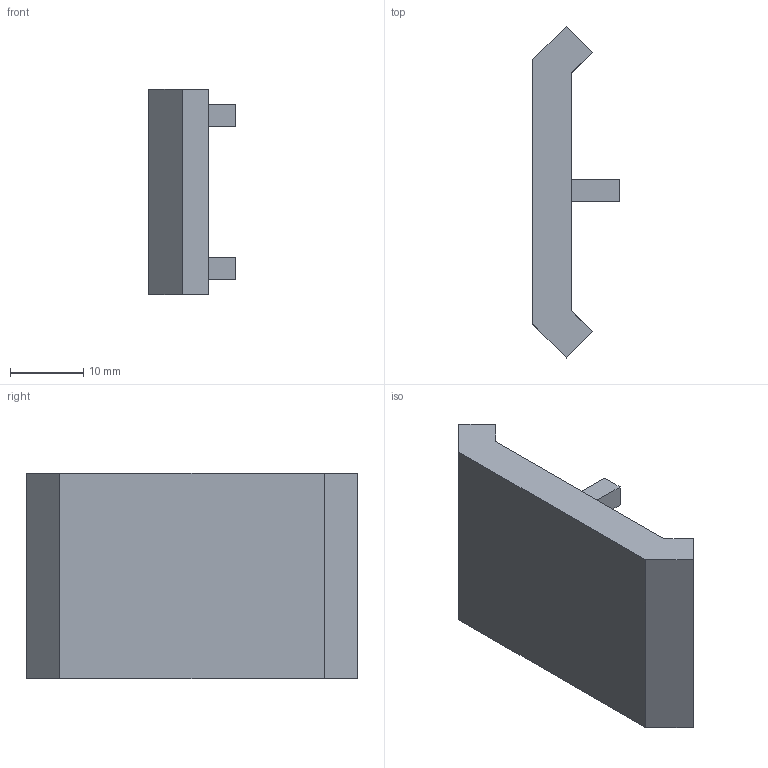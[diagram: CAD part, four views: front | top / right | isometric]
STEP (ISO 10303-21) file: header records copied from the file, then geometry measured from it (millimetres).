
FILE_DESCRIPTION (( 'STEP AP203' ), '1' );
FILE_NAME ('1037cap.STEP', '2016-03-22T14:58:51', ( '' ), ( '' ), 'SwSTEP 2.0', 'SolidWorks 2014', '' );
FILE_SCHEMA (( 'CONFIG_CONTROL_DESIGN' ));
Length unit declared in the file: millimetre
Products named in the file (1): 1037cap
Bounding box: 11.81 x 45.19 x 28 mm (x, y, z)
Volume: 3574.1 mm3; surface area: 3984.6 mm2
Topology: 1 solids, 1 shells, 26 faces, 66 edges, 44 vertices
Faces by surface type: plane 26
Entity records: 847 total; most frequent: CARTESIAN_POINT 137, ORIENTED_EDGE 132, DIRECTION 120, VECTOR 66, LINE 66, EDGE_CURVE 66, VERTEX_POINT 44, EDGE_LOOP 28
